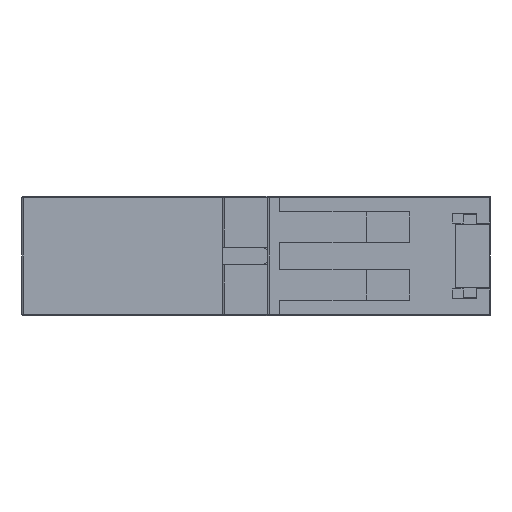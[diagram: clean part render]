
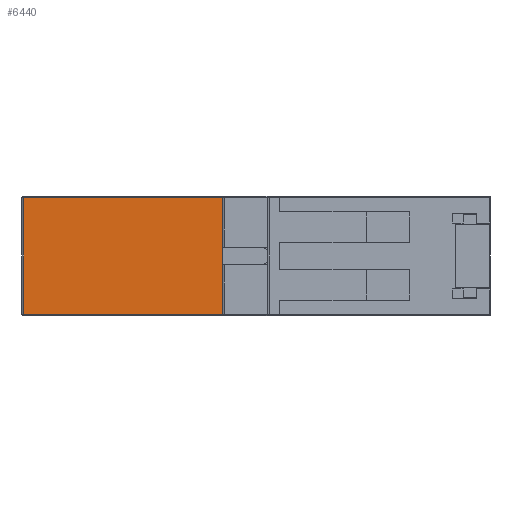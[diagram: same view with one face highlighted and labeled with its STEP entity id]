
A CAD part, left-side view. The second image highlights one B-rep face of the part: STEP entity #6440.
In plain terms, the highlighted planar face has unit normal (-1, 0, 0).
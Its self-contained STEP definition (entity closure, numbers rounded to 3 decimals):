
#6 = CARTESIAN_POINT ( 'NONE',  ( 18.98, 0.015, -4.3 ) ) ;
#85 = EDGE_CURVE ( 'NONE', #15092, #22944, #23941, .T. ) ;
#340 = LINE ( 'NONE', #19779, #16682 ) ;
#381 = LINE ( 'NONE', #11758, #1038 ) ;
#901 = DIRECTION ( 'NONE',  ( 0., 0., -1. ) ) ;
#1035 = ORIENTED_EDGE ( 'NONE', *, *, #16507, .F. ) ;
#1038 = VECTOR ( 'NONE', #26719, 1000. ) ;
#1209 = CARTESIAN_POINT ( 'NONE',  ( 18.98, -6.885, 7.6 ) ) ;
#1309 = DIRECTION ( 'NONE',  ( 0., 0., -1. ) ) ;
#1359 = CARTESIAN_POINT ( 'NONE',  ( 18.98, -7.735, 6.4 ) ) ;
#1668 = VECTOR ( 'NONE', #3341, 1000. ) ;
#2617 = CIRCLE ( 'NONE', #13604, 0.2 ) ;
#2684 = VECTOR ( 'NONE', #4271, 1000. ) ;
#2760 = LINE ( 'NONE', #9757, #24823 ) ;
#2820 = DIRECTION ( 'NONE',  ( 0., 1., 0. ) ) ;
#3066 = ORIENTED_EDGE ( 'NONE', *, *, #25770, .T. ) ;
#3341 = DIRECTION ( 'NONE',  ( 0., 0., -1. ) ) ;
#3712 = LINE ( 'NONE', #18808, #25779 ) ;
#3899 = CARTESIAN_POINT ( 'NONE',  ( 18.98, -0.985, -4.3 ) ) ;
#3943 = LINE ( 'NONE', #25666, #26002 ) ;
#3959 = ORIENTED_EDGE ( 'NONE', *, *, #85, .F. ) ;
#4121 = CIRCLE ( 'NONE', #13319, 0.2 ) ;
#4271 = DIRECTION ( 'NONE',  ( 0., -1., 0. ) ) ;
#4318 = CARTESIAN_POINT ( 'NONE',  ( 18.98, -0.985, -4.3 ) ) ;
#4453 = VERTEX_POINT ( 'NONE', #22095 ) ;
#4495 = EDGE_CURVE ( 'NONE', #13516, #11573, #24052, .T. ) ;
#4957 = DIRECTION ( 'NONE',  ( 1., 0., 0. ) ) ;
#5034 = EDGE_CURVE ( 'NONE', #14423, #5919, #340, .T. ) ;
#5215 = VECTOR ( 'NONE', #9810, 1000. ) ;
#5646 = EDGE_CURVE ( 'NONE', #5919, #4453, #2617, .T. ) ;
#5685 = EDGE_CURVE ( 'NONE', #18120, #15092, #7564, .T. ) ;
#5919 = VERTEX_POINT ( 'NONE', #8509 ) ;
#5943 = VERTEX_POINT ( 'NONE', #4318 ) ;
#6019 = DIRECTION ( 'NONE',  ( 0., 1., 0. ) ) ;
#6182 = EDGE_CURVE ( 'NONE', #5943, #22369, #12278, .T. ) ;
#6294 = EDGE_CURVE ( 'NONE', #5943, #4453, #3943, .T. ) ;
#6406 = CARTESIAN_POINT ( 'NONE',  ( 18.98, -6.885, -7.6 ) ) ;
#6440 = ADVANCED_FACE ( 'NONE', ( #22684 ), #24381, .F. ) ;
#6595 = VECTOR ( 'NONE', #6019, 1000. ) ;
#7072 = EDGE_CURVE ( 'NONE', #11573, #23117, #21618, .T. ) ;
#7394 = ORIENTED_EDGE ( 'NONE', *, *, #7072, .F. ) ;
#7564 = LINE ( 'NONE', #16034, #12600 ) ;
#7751 = CARTESIAN_POINT ( 'NONE',  ( 18.98, 25.965, -7.6 ) ) ;
#8312 = LINE ( 'NONE', #6406, #2684 ) ;
#8509 = CARTESIAN_POINT ( 'NONE',  ( 18.98, -1.185, -6.4 ) ) ;
#9330 = CARTESIAN_POINT ( 'NONE',  ( 18.98, -6.885, 7.8 ) ) ;
#9692 = ORIENTED_EDGE ( 'NONE', *, *, #24785, .T. ) ;
#9713 = EDGE_CURVE ( 'NONE', #22944, #22369, #2760, .T. ) ;
#9745 = DIRECTION ( 'NONE',  ( 0., 0., -1. ) ) ;
#9757 = CARTESIAN_POINT ( 'NONE',  ( 18.98, 0.015, 6.4 ) ) ;
#9810 = DIRECTION ( 'NONE',  ( 0., 1., 0. ) ) ;
#11081 = EDGE_CURVE ( 'NONE', #24678, #21421, #8312, .T. ) ;
#11573 = VERTEX_POINT ( 'NONE', #21472 ) ;
#11627 = DIRECTION ( 'NONE',  ( 1., 0., 0. ) ) ;
#11758 = CARTESIAN_POINT ( 'NONE',  ( 18.98, -6.885, -6.4 ) ) ;
#11810 = DIRECTION ( 'NONE',  ( 1., 0., 0. ) ) ;
#12188 = CARTESIAN_POINT ( 'NONE',  ( 18.98, -6.885, -7.6 ) ) ;
#12242 = ORIENTED_EDGE ( 'NONE', *, *, #11081, .T. ) ;
#12278 = LINE ( 'NONE', #3899, #6595 ) ;
#12474 = ORIENTED_EDGE ( 'NONE', *, *, #6294, .F. ) ;
#12600 = VECTOR ( 'NONE', #9745, 1000. ) ;
#12846 = DIRECTION ( 'NONE',  ( 0., 0., -1. ) ) ;
#12987 = LINE ( 'NONE', #16133, #1668 ) ;
#13319 = AXIS2_PLACEMENT_3D ( 'NONE', #17792, #4957, #19893 ) ;
#13456 = CARTESIAN_POINT ( 'NONE',  ( 18.98, -0.985, 4.3 ) ) ;
#13459 = CARTESIAN_POINT ( 'NONE',  ( 18.98, -1.185, 6.4 ) ) ;
#13516 = VERTEX_POINT ( 'NONE', #1209 ) ;
#13604 = AXIS2_PLACEMENT_3D ( 'NONE', #24648, #11810, #26771 ) ;
#14423 = VERTEX_POINT ( 'NONE', #21564 ) ;
#14859 = AXIS2_PLACEMENT_3D ( 'NONE', #20149, #11627, #26596 ) ;
#15092 = VERTEX_POINT ( 'NONE', #13456 ) ;
#16034 = CARTESIAN_POINT ( 'NONE',  ( 18.98, -0.985, 6.4 ) ) ;
#16133 = CARTESIAN_POINT ( 'NONE',  ( 18.98, 25.965, 7.8 ) ) ;
#16507 = EDGE_CURVE ( 'NONE', #14423, #21421, #381, .T. ) ;
#16682 = VECTOR ( 'NONE', #2820, 1000. ) ;
#17792 = CARTESIAN_POINT ( 'NONE',  ( 18.98, -1.185, 6.2 ) ) ;
#17987 = ORIENTED_EDGE ( 'NONE', *, *, #4495, .F. ) ;
#17997 = EDGE_CURVE ( 'NONE', #18120, #23117, #4121, .T. ) ;
#17998 = EDGE_LOOP ( 'NONE', ( #3066, #12242, #1035, #24661, #25567, #12474, #26484, #22350, #3959, #27388, #21642, #7394, #17987, #9692 ) ) ;
#18120 = VERTEX_POINT ( 'NONE', #22452 ) ;
#18245 = VECTOR ( 'NONE', #21057, 1000. ) ;
#18274 = VERTEX_POINT ( 'NONE', #22928 ) ;
#18808 = CARTESIAN_POINT ( 'NONE',  ( 18.98, -0.835, 7.6 ) ) ;
#19779 = CARTESIAN_POINT ( 'NONE',  ( 18.98, -7.735, -6.4 ) ) ;
#19893 = DIRECTION ( 'NONE',  ( 0., 0., -1. ) ) ;
#20149 = CARTESIAN_POINT ( 'NONE',  ( 18.98, -0.835, 7.8 ) ) ;
#20684 = CARTESIAN_POINT ( 'NONE',  ( 18.98, -0.985, 4.3 ) ) ;
#21057 = DIRECTION ( 'NONE',  ( 0., 1., 0. ) ) ;
#21339 = VECTOR ( 'NONE', #901, 1000. ) ;
#21421 = VERTEX_POINT ( 'NONE', #12188 ) ;
#21472 = CARTESIAN_POINT ( 'NONE',  ( 18.98, -6.885, 6.4 ) ) ;
#21564 = CARTESIAN_POINT ( 'NONE',  ( 18.98, -6.885, -6.4 ) ) ;
#21618 = LINE ( 'NONE', #1359, #5215 ) ;
#21642 = ORIENTED_EDGE ( 'NONE', *, *, #17997, .T. ) ;
#22095 = CARTESIAN_POINT ( 'NONE',  ( 18.98, -0.985, -6.2 ) ) ;
#22350 = ORIENTED_EDGE ( 'NONE', *, *, #9713, .F. ) ;
#22369 = VERTEX_POINT ( 'NONE', #6 ) ;
#22452 = CARTESIAN_POINT ( 'NONE',  ( 18.98, -0.985, 6.2 ) ) ;
#22684 = FACE_OUTER_BOUND ( 'NONE', #17998, .T. ) ;
#22928 = CARTESIAN_POINT ( 'NONE',  ( 18.98, 25.965, 7.6 ) ) ;
#22944 = VERTEX_POINT ( 'NONE', #25358 ) ;
#23117 = VERTEX_POINT ( 'NONE', #13459 ) ;
#23941 = LINE ( 'NONE', #20684, #18245 ) ;
#24052 = LINE ( 'NONE', #9330, #21339 ) ;
#24381 = PLANE ( 'NONE',  #14859 ) ;
#24648 = CARTESIAN_POINT ( 'NONE',  ( 18.98, -1.185, -6.2 ) ) ;
#24661 = ORIENTED_EDGE ( 'NONE', *, *, #5034, .T. ) ;
#24678 = VERTEX_POINT ( 'NONE', #7751 ) ;
#24785 = EDGE_CURVE ( 'NONE', #13516, #18274, #3712, .T. ) ;
#24823 = VECTOR ( 'NONE', #1309, 1000. ) ;
#25254 = DIRECTION ( 'NONE',  ( 0., 1., 0. ) ) ;
#25358 = CARTESIAN_POINT ( 'NONE',  ( 18.98, 0.015, 4.3 ) ) ;
#25567 = ORIENTED_EDGE ( 'NONE', *, *, #5646, .T. ) ;
#25666 = CARTESIAN_POINT ( 'NONE',  ( 18.98, -0.985, -6.4 ) ) ;
#25770 = EDGE_CURVE ( 'NONE', #18274, #24678, #12987, .T. ) ;
#25779 = VECTOR ( 'NONE', #25254, 1000. ) ;
#26002 = VECTOR ( 'NONE', #12846, 1000. ) ;
#26484 = ORIENTED_EDGE ( 'NONE', *, *, #6182, .T. ) ;
#26596 = DIRECTION ( 'NONE',  ( 0., 1., 0. ) ) ;
#26719 = DIRECTION ( 'NONE',  ( 0., 0., -1. ) ) ;
#26771 = DIRECTION ( 'NONE',  ( 0., 0., -1. ) ) ;
#27388 = ORIENTED_EDGE ( 'NONE', *, *, #5685, .F. ) ;
